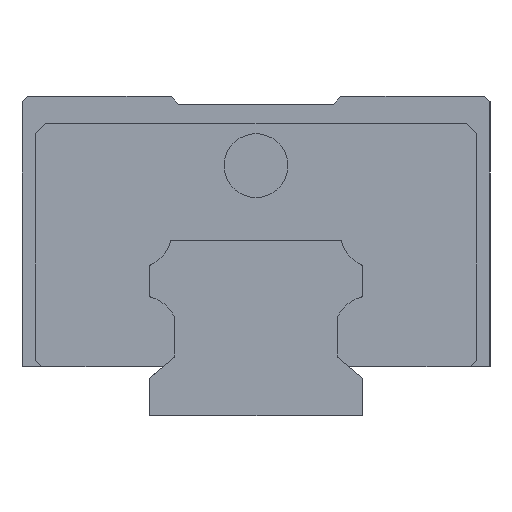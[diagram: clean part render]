
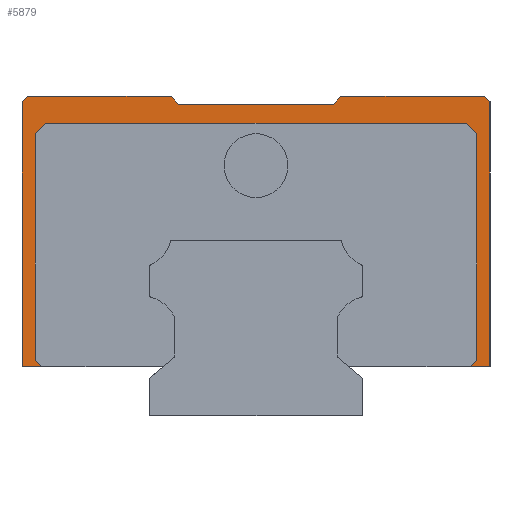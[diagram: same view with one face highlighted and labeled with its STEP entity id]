
A CAD part, left-side view. The second image highlights one B-rep face of the part: STEP entity #5879.
In plain terms, the highlighted planar face has unit normal (-1, 0, 0).
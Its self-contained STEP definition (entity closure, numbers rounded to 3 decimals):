
#49 = CARTESIAN_POINT ( 'NONE',  ( -39., -22., 4.6 ) ) ;
#108 = CARTESIAN_POINT ( 'NONE',  ( -39., -20.75, 26.5 ) ) ;
#150 = ORIENTED_EDGE ( 'NONE', *, *, #948, .T. ) ;
#183 = DIRECTION ( 'NONE',  ( 0., 0., 1. ) ) ;
#229 = VERTEX_POINT ( 'NONE', #2224 ) ;
#274 = LINE ( 'NONE', #1153, #2954 ) ;
#290 = VECTOR ( 'NONE', #3134, 1000. ) ;
#310 = ORIENTED_EDGE ( 'NONE', *, *, #1304, .T. ) ;
#319 = ORIENTED_EDGE ( 'NONE', *, *, #3582, .T. ) ;
#370 = DIRECTION ( 'NONE',  ( 0., 0.707, -0.707 ) ) ;
#384 = DIRECTION ( 'NONE',  ( 0., 0.643, -0.766 ) ) ;
#404 = EDGE_CURVE ( 'NONE', #2823, #896, #1318, .T. ) ;
#410 = CARTESIAN_POINT ( 'NONE',  ( -39., 21.5, 30. ) ) ;
#417 = CARTESIAN_POINT ( 'NONE',  ( -39., -22., 4.6 ) ) ;
#429 = CARTESIAN_POINT ( 'NONE',  ( -39., -7.333, 29.25 ) ) ;
#472 = DIRECTION ( 'NONE',  ( 0., -1., 0. ) ) ;
#620 = ORIENTED_EDGE ( 'NONE', *, *, #3096, .F. ) ;
#637 = VECTOR ( 'NONE', #472, 1000. ) ;
#699 = CARTESIAN_POINT ( 'NONE',  ( -39., 20.75, 5.2 ) ) ;
#760 = LINE ( 'NONE', #5349, #816 ) ;
#813 = CARTESIAN_POINT ( 'NONE',  ( -39., 20.75, 5.2 ) ) ;
#816 = VECTOR ( 'NONE', #1280, 1000. ) ;
#817 = VECTOR ( 'NONE', #183, 1000. ) ;
#831 = CARTESIAN_POINT ( 'NONE',  ( -39., 20.15, 4.6 ) ) ;
#842 = CARTESIAN_POINT ( 'NONE',  ( -39., -22., 30. ) ) ;
#884 = VERTEX_POINT ( 'NONE', #2629 ) ;
#896 = VERTEX_POINT ( 'NONE', #699 ) ;
#928 = EDGE_CURVE ( 'NONE', #4597, #2140, #274, .T. ) ;
#929 = PLANE ( 'NONE',  #2303 ) ;
#933 = ORIENTED_EDGE ( 'NONE', *, *, #2674, .T. ) ;
#948 = EDGE_CURVE ( 'NONE', #5081, #2754, #760, .T. ) ;
#992 = CARTESIAN_POINT ( 'NONE',  ( -39., -20.15, 4.6 ) ) ;
#1006 = VECTOR ( 'NONE', #5143, 1000. ) ;
#1126 = VERTEX_POINT ( 'NONE', #4162 ) ;
#1153 = CARTESIAN_POINT ( 'NONE',  ( -39., 21.5, 30. ) ) ;
#1247 = DIRECTION ( 'NONE',  ( 0., 0.707, -0.707 ) ) ;
#1280 = DIRECTION ( 'NONE',  ( 0., 1., 0. ) ) ;
#1304 = EDGE_CURVE ( 'NONE', #2754, #1379, #5860, .T. ) ;
#1307 = LINE ( 'NONE', #3177, #2302 ) ;
#1318 = LINE ( 'NONE', #831, #3443 ) ;
#1330 = DIRECTION ( 'NONE',  ( 1., 0., 0. ) ) ;
#1354 = LINE ( 'NONE', #5516, #5724 ) ;
#1371 = ORIENTED_EDGE ( 'NONE', *, *, #3551, .T. ) ;
#1379 = VERTEX_POINT ( 'NONE', #4996 ) ;
#1389 = LINE ( 'NONE', #1856, #4925 ) ;
#1420 = EDGE_CURVE ( 'NONE', #2823, #2723, #1791, .T. ) ;
#1451 = ORIENTED_EDGE ( 'NONE', *, *, #4621, .F. ) ;
#1504 = VECTOR ( 'NONE', #5090, 1000. ) ;
#1730 = CARTESIAN_POINT ( 'NONE',  ( -39., -22., 29.5 ) ) ;
#1785 = CARTESIAN_POINT ( 'NONE',  ( -39., -22., 30. ) ) ;
#1791 = LINE ( 'NONE', #4638, #1899 ) ;
#1821 = VECTOR ( 'NONE', #384, 1000. ) ;
#1856 = CARTESIAN_POINT ( 'NONE',  ( -39., 19.75, 27.5 ) ) ;
#1882 = CARTESIAN_POINT ( 'NONE',  ( -39., 20.75, 26.5 ) ) ;
#1899 = VECTOR ( 'NONE', #5489, 1000. ) ;
#1945 = VECTOR ( 'NONE', #3819, 1000. ) ;
#1995 = VERTEX_POINT ( 'NONE', #4858 ) ;
#2009 = CARTESIAN_POINT ( 'NONE',  ( -39., -19.75, 27.5 ) ) ;
#2082 = ORIENTED_EDGE ( 'NONE', *, *, #3164, .F. ) ;
#2140 = VERTEX_POINT ( 'NONE', #3358 ) ;
#2178 = DIRECTION ( 'NONE',  ( 0., 0.707, 0.707 ) ) ;
#2179 = EDGE_LOOP ( 'NONE', ( #3007, #933, #2082, #620, #3099, #2690, #1371, #150, #310, #1451, #2731, #5926, #6030, #3906, #5920, #319, #5494, #5967 ) ) ;
#2224 = CARTESIAN_POINT ( 'NONE',  ( -39., -7.963, 30. ) ) ;
#2227 = VERTEX_POINT ( 'NONE', #5369 ) ;
#2302 = VECTOR ( 'NONE', #1247, 1000. ) ;
#2303 = AXIS2_PLACEMENT_3D ( 'NONE', #842, #1330, #5946 ) ;
#2308 = CARTESIAN_POINT ( 'NONE',  ( -39., 22., 30. ) ) ;
#2321 = LINE ( 'NONE', #4641, #637 ) ;
#2400 = VECTOR ( 'NONE', #4241, 1000. ) ;
#2447 = EDGE_CURVE ( 'NONE', #2723, #2140, #4405, .T. ) ;
#2629 = CARTESIAN_POINT ( 'NONE',  ( -39., -20.75, 26.5 ) ) ;
#2674 = EDGE_CURVE ( 'NONE', #2227, #2806, #1307, .T. ) ;
#2690 = ORIENTED_EDGE ( 'NONE', *, *, #5499, .F. ) ;
#2719 = VERTEX_POINT ( 'NONE', #49 ) ;
#2723 = VERTEX_POINT ( 'NONE', #4642 ) ;
#2731 = ORIENTED_EDGE ( 'NONE', *, *, #928, .T. ) ;
#2739 = LINE ( 'NONE', #417, #2400 ) ;
#2754 = VERTEX_POINT ( 'NONE', #3669 ) ;
#2806 = VERTEX_POINT ( 'NONE', #992 ) ;
#2823 = VERTEX_POINT ( 'NONE', #4754 ) ;
#2954 = VECTOR ( 'NONE', #370, 1000. ) ;
#3007 = ORIENTED_EDGE ( 'NONE', *, *, #4394, .T. ) ;
#3017 = EDGE_CURVE ( 'NONE', #896, #5450, #4065, .T. ) ;
#3047 = VERTEX_POINT ( 'NONE', #1730 ) ;
#3063 = LINE ( 'NONE', #4484, #3903 ) ;
#3096 = EDGE_CURVE ( 'NONE', #3047, #2719, #3631, .T. ) ;
#3099 = ORIENTED_EDGE ( 'NONE', *, *, #3410, .T. ) ;
#3134 = DIRECTION ( 'NONE',  ( 0., 0.643, 0.766 ) ) ;
#3164 = EDGE_CURVE ( 'NONE', #2719, #2806, #2739, .T. ) ;
#3177 = CARTESIAN_POINT ( 'NONE',  ( -39., -20.75, 5.2 ) ) ;
#3358 = CARTESIAN_POINT ( 'NONE',  ( -39., 22., 29.5 ) ) ;
#3410 = EDGE_CURVE ( 'NONE', #3047, #1126, #3063, .T. ) ;
#3424 = CARTESIAN_POINT ( 'NONE',  ( -39., 19.75, 27.5 ) ) ;
#3443 = VECTOR ( 'NONE', #2178, 1000. ) ;
#3551 = EDGE_CURVE ( 'NONE', #229, #5081, #4543, .T. ) ;
#3582 = EDGE_CURVE ( 'NONE', #5450, #5245, #1354, .T. ) ;
#3631 = LINE ( 'NONE', #1785, #1504 ) ;
#3669 = CARTESIAN_POINT ( 'NONE',  ( -39., 7.333, 29.25 ) ) ;
#3819 = DIRECTION ( 'NONE',  ( 0., -0.707, -0.707 ) ) ;
#3903 = VECTOR ( 'NONE', #4959, 1000. ) ;
#3906 = ORIENTED_EDGE ( 'NONE', *, *, #404, .T. ) ;
#3911 = LINE ( 'NONE', #2009, #1945 ) ;
#3943 = CARTESIAN_POINT ( 'NONE',  ( -39., 22., 4.6 ) ) ;
#3957 = VECTOR ( 'NONE', #5429, 1000. ) ;
#4065 = LINE ( 'NONE', #813, #3957 ) ;
#4087 = DIRECTION ( 'NONE',  ( 0., -0.707, 0.707 ) ) ;
#4162 = CARTESIAN_POINT ( 'NONE',  ( -39., -21.5, 30. ) ) ;
#4241 = DIRECTION ( 'NONE',  ( 0., 1., 0. ) ) ;
#4394 = EDGE_CURVE ( 'NONE', #884, #2227, #4696, .T. ) ;
#4405 = LINE ( 'NONE', #3943, #817 ) ;
#4461 = CARTESIAN_POINT ( 'NONE',  ( -39., 7.333, 29.25 ) ) ;
#4484 = CARTESIAN_POINT ( 'NONE',  ( -39., -22., 29.5 ) ) ;
#4543 = LINE ( 'NONE', #5549, #1821 ) ;
#4597 = VERTEX_POINT ( 'NONE', #410 ) ;
#4621 = EDGE_CURVE ( 'NONE', #4597, #1379, #5113, .T. ) ;
#4638 = CARTESIAN_POINT ( 'NONE',  ( -39., 9., 4.6 ) ) ;
#4641 = CARTESIAN_POINT ( 'NONE',  ( -39., 22., 30. ) ) ;
#4642 = CARTESIAN_POINT ( 'NONE',  ( -39., 22., 4.6 ) ) ;
#4696 = LINE ( 'NONE', #108, #5688 ) ;
#4754 = CARTESIAN_POINT ( 'NONE',  ( -39., 20.15, 4.6 ) ) ;
#4858 = CARTESIAN_POINT ( 'NONE',  ( -39., -19.75, 27.5 ) ) ;
#4925 = VECTOR ( 'NONE', #5529, 1000. ) ;
#4959 = DIRECTION ( 'NONE',  ( 0., 0.707, 0.707 ) ) ;
#4996 = CARTESIAN_POINT ( 'NONE',  ( -39., 7.963, 30. ) ) ;
#5081 = VERTEX_POINT ( 'NONE', #429 ) ;
#5090 = DIRECTION ( 'NONE',  ( 0., 0., -1. ) ) ;
#5113 = LINE ( 'NONE', #2308, #1006 ) ;
#5118 = FACE_OUTER_BOUND ( 'NONE', #2179, .T. ) ;
#5143 = DIRECTION ( 'NONE',  ( 0., -1., 0. ) ) ;
#5210 = DIRECTION ( 'NONE',  ( 0., 0., -1. ) ) ;
#5238 = EDGE_CURVE ( 'NONE', #1995, #884, #3911, .T. ) ;
#5245 = VERTEX_POINT ( 'NONE', #3424 ) ;
#5349 = CARTESIAN_POINT ( 'NONE',  ( -39., -7.333, 29.25 ) ) ;
#5369 = CARTESIAN_POINT ( 'NONE',  ( -39., -20.75, 5.2 ) ) ;
#5395 = EDGE_CURVE ( 'NONE', #5245, #1995, #1389, .T. ) ;
#5429 = DIRECTION ( 'NONE',  ( 0., 0., 1. ) ) ;
#5450 = VERTEX_POINT ( 'NONE', #1882 ) ;
#5489 = DIRECTION ( 'NONE',  ( 0., 1., 0. ) ) ;
#5494 = ORIENTED_EDGE ( 'NONE', *, *, #5395, .T. ) ;
#5499 = EDGE_CURVE ( 'NONE', #229, #1126, #2321, .T. ) ;
#5516 = CARTESIAN_POINT ( 'NONE',  ( -39., 20.75, 26.5 ) ) ;
#5529 = DIRECTION ( 'NONE',  ( 0., -1., 0. ) ) ;
#5549 = CARTESIAN_POINT ( 'NONE',  ( -39., -7.963, 30. ) ) ;
#5688 = VECTOR ( 'NONE', #5210, 1000. ) ;
#5724 = VECTOR ( 'NONE', #4087, 1000. ) ;
#5860 = LINE ( 'NONE', #4461, #290 ) ;
#5879 = ADVANCED_FACE ( 'NONE', ( #5118 ), #929, .F. ) ;
#5920 = ORIENTED_EDGE ( 'NONE', *, *, #3017, .T. ) ;
#5926 = ORIENTED_EDGE ( 'NONE', *, *, #2447, .F. ) ;
#5946 = DIRECTION ( 'NONE',  ( 0., 1., 0. ) ) ;
#5967 = ORIENTED_EDGE ( 'NONE', *, *, #5238, .T. ) ;
#6030 = ORIENTED_EDGE ( 'NONE', *, *, #1420, .F. ) ;
